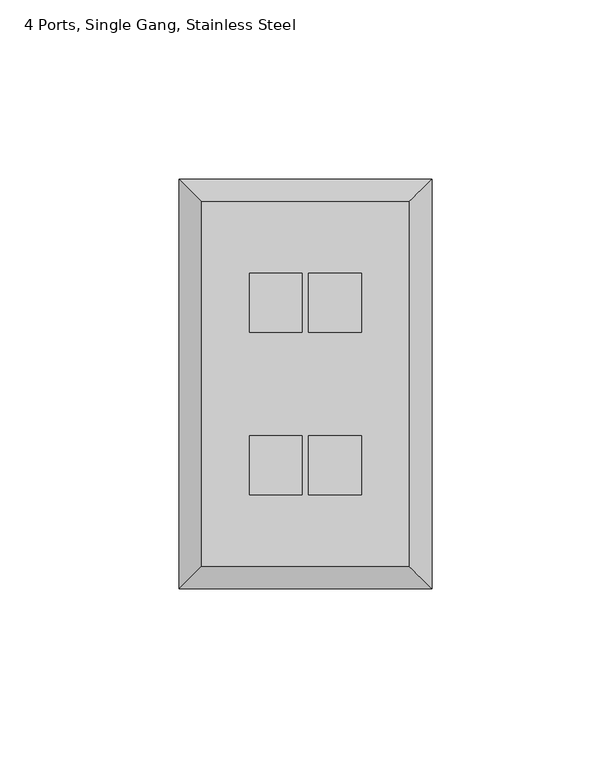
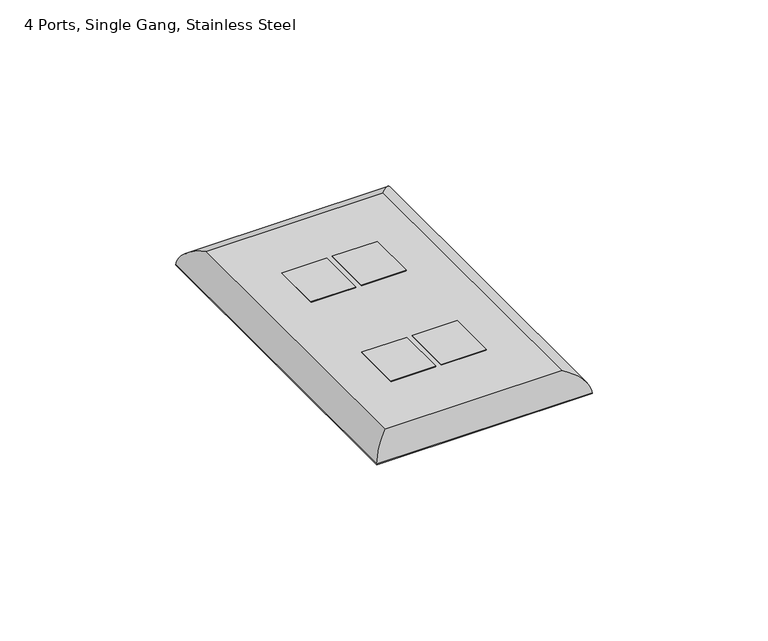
"""IFC4 building model written with IfcOpenShell, lengths in millimetres: electric appliance geometry, Data_Device-Work_Area-Leviton-QuickPort-Wallplate : 4 Ports, Single Gang, Stainless Steel."""

from ifc_helpers import new_model, si_unit, frame, origin, origin_with_axes, place, context, project, spatial, polyline, ellipse_curve, outline, extrude, source, transform, mapped, element, save
from ifc_brep_helpers import plane_surface, cylinder_surface, advanced_brep


def electric_appliance_4_ports_single_gang_stainless_steel_ee00b7dd(model_context):
    return source(origin(), model_context, "Body", "SolidModel", [
        extrude(outline(polyline([(-23.9268, 39.1414), (-23.9268, 22.6314), (-38.6588, 22.6314), (-38.6588, 39.1414), (-23.9268, 39.1414)])), origin_with_axes(), (0.0, 0.0, 1.0), 6.35),
        extrude(outline(polyline([(-23.9268, -6.2484), (-23.9268, -22.7584), (-38.6588, -22.7584), (-38.6588, -6.2484), (-23.9268, -6.2484)])), origin_with_axes(), (0.0, 0.0, 1.0), 6.35),
        extrude(outline(polyline([(-7.3914, 39.1414), (-7.3914, 22.6314), (-22.1234, 22.6314), (-22.1234, 39.1414), (-7.3914, 39.1414)])), origin_with_axes(), (0.0, 0.0, 1.0), 6.35),
        extrude(outline(polyline([(-7.3914, -6.2484), (-7.3914, -22.7584), (-22.1234, -22.7584), (-22.1234, -6.2484), (-7.3914, -6.2484)])), origin_with_axes(), (0.0, 0.0, 1.0), 6.35),
        advanced_brep(
        [(5.9309, -42.6085, 6.35), (5.9309, 58.9915, 6.35), (-51.9811, 58.9915, 6.35), (-51.9811, -42.6085, 6.35), (-38.6588, 39.1414, 6.35), (-23.9268, 39.1414, 6.35), (-23.9268, 22.6314, 6.35), (-38.6588, 22.6314, 6.35), (-38.6588, -6.2484, 6.35), (-23.9268, -6.2484, 6.35), (-23.9268, -22.7584, 6.35), (-38.6588, -22.7584, 6.35), (-22.1234, 39.1414, 6.35), (-7.3914, 39.1414, 6.35), (-7.3914, 22.6314, 6.35), (-22.1234, 22.6314, 6.35), (-22.1234, -6.2484, 6.35), (-7.3914, -6.2484, 6.35), (-7.3914, -22.7584, 6.35), (-22.1234, -22.7584, 6.35), (12.2809, 65.3415, 0.0), (12.2809, -48.9585, 0.0), (-58.3311, -48.9585, 0.0), (-58.3311, 65.3415, 0.0), (-23.9268, 39.1414, 0.0), (-38.6588, 39.1414, 0.0), (-38.6588, 22.6314, 0.0), (-23.9268, 22.6314, 0.0), (-23.9268, -6.2484, 0.0), (-38.6588, -6.2484, 0.0), (-38.6588, -22.7584, 0.0), (-23.9268, -22.7584, 0.0), (-7.3914, 39.1414, 0.0), (-22.1234, 39.1414, 0.0), (-22.1234, 22.6314, 0.0), (-7.3914, 22.6314, 0.0), (-7.3914, -6.2484, 0.0), (-22.1234, -6.2484, 0.0), (-22.1234, -22.7584, 0.0), (-7.3914, -22.7584, 0.0), (-58.3311, 65.3415, 0.254), (12.2809, 65.3415, 0.254), (-58.3311, -48.9585, 0.254), (12.2809, -48.9585, 0.254)],
        [
            (0, 1),
            (1, 2),
            (2, 3),
            (3, 0),
            (4, 5),
            (5, 6),
            (6, 7),
            (7, 4),
            (8, 9),
            (9, 10),
            (10, 11),
            (11, 8),
            (12, 13),
            (13, 14),
            (14, 15),
            (15, 12),
            (16, 17),
            (17, 18),
            (18, 19),
            (19, 16),
            (20, 21),
            (21, 22),
            (22, 23),
            (23, 20),
            (24, 25),
            (25, 26),
            (26, 27),
            (27, 24),
            (28, 29),
            (29, 30),
            (30, 31),
            (31, 28),
            (32, 33),
            (33, 34),
            (34, 35),
            (35, 32),
            (36, 37),
            (37, 38),
            (38, 39),
            (39, 36),
            (23, 40),
            (40, 41),
            (41, 20),
            (22, 42),
            (42, 40),
            (21, 43),
            (43, 42),
            (41, 43),
            (4, 25),
            (24, 5),
            (7, 26),
            (6, 27),
            (8, 29),
            (28, 9),
            (11, 30),
            (10, 31),
            (12, 33),
            (32, 13),
            (15, 34),
            (14, 35),
            (16, 37),
            (36, 17),
            (19, 38),
            (18, 39),
            (0, 43, ellipse_curve(frame((5.9309, -42.6085, -0.0052917), z_axis=(0.7071067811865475, 0.7071067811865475, 0.0), x_axis=(0.7071067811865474, -0.7071067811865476, 0.0)), 8.9877397, 6.3552917)),
            (41, 1, ellipse_curve(frame((5.9309, 58.9915, -0.0052917), z_axis=(0.7071067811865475, -0.7071067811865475, 0.0), x_axis=(-0.7071067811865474, -0.7071067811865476, 0.0)), 8.9877397, 6.3552917)),
            (3, 42, ellipse_curve(frame((-51.9811, -42.6085, -0.0052917), z_axis=(0.7071067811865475, -0.7071067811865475, 0.0), x_axis=(-0.7071067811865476, -0.7071067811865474, 0.0)), 8.9877397, 6.3552917)),
            (2, 40, ellipse_curve(frame((-51.9811, 58.9915, -0.0052917), z_axis=(-0.7071067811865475, -0.7071067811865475, 0.0), x_axis=(-0.7071067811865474, 0.7071067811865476, 0.0)), 8.9877397, 6.3552917)),
        ],
        [
            plane_surface(frame((-58.3311, 65.3415, 6.35), z_axis=(0.0, 0.0, 1.0), x_axis=(-1.0, 0.0, 0.0))),
            plane_surface(frame((-58.3311, 65.3415, 0.0), z_axis=(0.0, 0.0, -1.0), x_axis=(1.0, 0.0, 0.0))),
            plane_surface(frame((12.2809, 65.3415, 6.35), z_axis=(0.0, 1.0, 0.0), x_axis=(0.0, 0.0, -1.0))),
            plane_surface(frame((-58.3311, 65.3415, 6.35), z_axis=(-1.0, 0.0, 0.0), x_axis=(0.0, 0.0, -1.0))),
            plane_surface(frame((-58.3311, -48.9585, 6.35), z_axis=(0.0, -1.0, 0.0), x_axis=(0.0, 0.0, -1.0))),
            plane_surface(frame((12.2809, -48.9585, 6.35), z_axis=(1.0, 0.0, 0.0), x_axis=(0.0, 0.0, -1.0))),
            plane_surface(frame((-23.9268, 39.1414, 6.35), z_axis=(0.0, -1.0, 0.0), x_axis=(0.0, 0.0, -1.0))),
            plane_surface(frame((-38.6588, 39.1414, 6.35), z_axis=(1.0, 0.0, 0.0), x_axis=(0.0, 0.0, -1.0))),
            plane_surface(frame((-38.6588, 22.6314, 6.35), z_axis=(0.0, 1.0, 0.0), x_axis=(0.0, 0.0, -1.0))),
            plane_surface(frame((-23.9268, 22.6314, 6.35), z_axis=(-1.0, 0.0, 0.0), x_axis=(0.0, 0.0, -1.0))),
            plane_surface(frame((-23.9268, -6.2484, 6.35), z_axis=(0.0, -1.0, 0.0), x_axis=(0.0, 0.0, -1.0))),
            plane_surface(frame((-38.6588, -6.2484, 6.35), z_axis=(1.0, 0.0, 0.0), x_axis=(0.0, 0.0, -1.0))),
            plane_surface(frame((-38.6588, -22.7584, 6.35), z_axis=(0.0, 1.0, 0.0), x_axis=(0.0, 0.0, -1.0))),
            plane_surface(frame((-23.9268, -22.7584, 6.35), z_axis=(-1.0, 0.0, 0.0), x_axis=(0.0, 0.0, -1.0))),
            plane_surface(frame((-7.3914, 39.1414, 6.35), z_axis=(0.0, -1.0, 0.0), x_axis=(0.0, 0.0, -1.0))),
            plane_surface(frame((-22.1234, 39.1414, 6.35), z_axis=(1.0, 0.0, 0.0), x_axis=(0.0, 0.0, -1.0))),
            plane_surface(frame((-22.1234, 22.6314, 6.35), z_axis=(0.0, 1.0, 0.0), x_axis=(0.0, 0.0, -1.0))),
            plane_surface(frame((-7.3914, 22.6314, 6.35), z_axis=(-1.0, 0.0, 0.0), x_axis=(0.0, 0.0, -1.0))),
            plane_surface(frame((-7.3914, -6.2484, 6.35), z_axis=(0.0, -1.0, 0.0), x_axis=(0.0, 0.0, -1.0))),
            plane_surface(frame((-22.1234, -6.2484, 6.35), z_axis=(1.0, 0.0, 0.0), x_axis=(0.0, 0.0, -1.0))),
            plane_surface(frame((-22.1234, -22.7584, 6.35), z_axis=(0.0, 1.0, 0.0), x_axis=(0.0, 0.0, -1.0))),
            plane_surface(frame((-7.3914, -22.7584, 6.35), z_axis=(-1.0, 0.0, 0.0), x_axis=(0.0, 0.0, -1.0))),
            cylinder_surface(frame((5.9309, 65.3415, -0.0052917), z_axis=(0.0, -1.0, 0.0), x_axis=(1.0, 0.0, 0.0)), 6.3552917),
            cylinder_surface(frame((12.2809, -42.6085, -0.0052917), z_axis=(-1.0, 0.0, 0.0), x_axis=(0.0, -1.0, 0.0)), 6.3552917),
            cylinder_surface(frame((-51.9811, -48.9585, -0.0052917), z_axis=(0.0, 1.0, 0.0), x_axis=(-1.0, 0.0, 0.0)), 6.3552917),
            cylinder_surface(frame((-58.3311, 58.9915, -0.0052917), z_axis=(1.0, 0.0, 0.0), x_axis=(0.0, 1.0, 0.0)), 6.3552917),
        ],
        [
            (0, [[1, 2, 3, 4], [5, 6, 7, 8], [9, 10, 11, 12], [13, 14, 15, 16], [17, 18, 19, 20]]),
            (1, [[21, 22, 23, 24], [25, 26, 27, 28], [29, 30, 31, 32], [33, 34, 35, 36], [37, 38, 39, 40]]),
            (2, [[-24, 41, 42, 43]]),
            (3, [[-23, 44, 45, -41]]),
            (4, [[-22, 46, 47, -44]]),
            (5, [[-21, -43, 48, -46]]),
            (6, [[49, -25, 50, -5]]),
            (7, [[-49, -8, 51, -26]]),
            (8, [[-51, -7, 52, -27]]),
            (9, [[-50, -28, -52, -6]]),
            (10, [[53, -29, 54, -9]]),
            (11, [[-53, -12, 55, -30]]),
            (12, [[-55, -11, 56, -31]]),
            (13, [[-54, -32, -56, -10]]),
            (14, [[57, -33, 58, -13]]),
            (15, [[-57, -16, 59, -34]]),
            (16, [[-59, -15, 60, -35]]),
            (17, [[-58, -36, -60, -14]]),
            (18, [[61, -37, 62, -17]]),
            (19, [[-61, -20, 63, -38]]),
            (20, [[-63, -19, 64, -39]]),
            (21, [[-62, -40, -64, -18]]),
            (22, [[65, -48, 66, -1]]),
            (23, [[-65, -4, 67, -47]]),
            (24, [[-67, -3, 68, -45]]),
            (25, [[-66, -42, -68, -2]]),
        ],
    ),
        extrude(outline(polyline([(12.0269, 65.0875), (12.0269, -48.7045), (-58.0771, -48.7045), (-58.0771, 65.0875), (12.0269, 65.0875)]), holes=[polyline([(-23.9268, 39.1414), (-38.6588, 39.1414), (-38.6588, 22.6314), (-23.9268, 22.6314), (-23.9268, 39.1414)]), polyline([(-23.9268, -6.2484), (-38.6588, -6.2484), (-38.6588, -22.7584), (-23.9268, -22.7584), (-23.9268, -6.2484)]), polyline([(-7.3914, 39.1414), (-22.1234, 39.1414), (-22.1234, 22.6314), (-7.3914, 22.6314), (-7.3914, 39.1414)]), polyline([(-7.3914, -6.2484), (-22.1234, -6.2484), (-22.1234, -22.7584), (-7.3914, -22.7584), (-7.3914, -6.2484)])]), origin_with_axes(), (0.0, 0.0, 1.0), 0.254),
    ])


if __name__ == "__main__":
    model = new_model("IFC4")
    model_context = context("Model", 3, world=origin())
    ifc_project = project(units=[si_unit("LENGTHUNIT", "METRE", prefix="MILLI")], contexts=[model_context])
    site = spatial("IfcSite", under=ifc_project)
    building = spatial("IfcBuilding", under=site)
    placement = place(None, origin())
    electric_appliance_4_ports_single_gang_stainless_steel_shape = electric_appliance_4_ports_single_gang_stainless_steel_ee00b7dd(model_context)
    element("IfcElectricAppliance", 1, ObjectType="Data_Device-Work_Area-Leviton-QuickPort-Wallplate : 4 Ports, Single Gang, Stainless Steel", at=placement, inside=building, context=model_context, shape_type="MappedRepresentation", body=[
        mapped(electric_appliance_4_ports_single_gang_stainless_steel_shape, transform((0.0, 0.0, 0.0), x_axis=(1.0, 0.0, 0.0), y_axis=(0.0, 1.0, 0.0), z_axis=(0.0, 0.0, 1.0))),
    ])
    save(model, "model.ifc")
